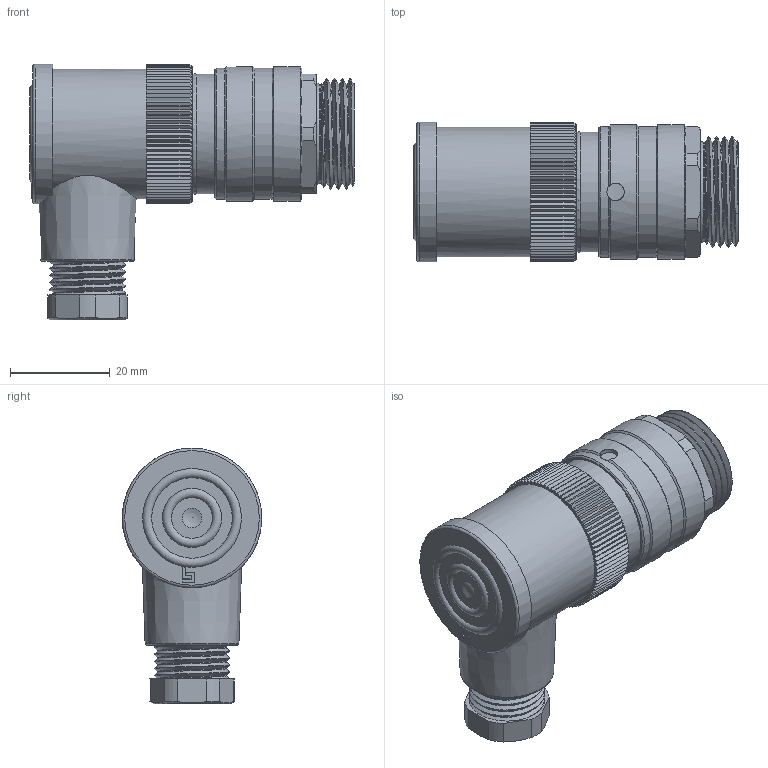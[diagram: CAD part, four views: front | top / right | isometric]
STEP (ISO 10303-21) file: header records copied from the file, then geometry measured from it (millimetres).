
FILE_DESCRIPTION(/* description */ (''),/* implementation_level */ '2;1');
FILE_NAME(/* name */ '99 2443 52 04 001_00.stp',/* time_stamp */ '2017-07-31T06:44:27+02:00',/* author */ (''),/* organization */ (''),/* preprocessor_version */ 'ST-DEVELOPER v16',/* originating_system */ 'SIEMENS PLM Software NX 11.0',/* authorisation */ '');
FILE_SCHEMA (('AUTOMOTIVE_DESIGN { 1 0 10303 214 3 1 1 1 }'));
Length unit declared in the file: millimetre
Products named in the file (1): smag1CC4F0DAxssc
Bounding box: 65.1 x 28 x 51.3 mm (x, y, z)
Volume: 37665.3 mm3; surface area: 11367.3 mm2
Topology: 1 solids, 2 shells, 441 faces, 1016 edges, 605 vertices
Faces by surface type: plane 249, cone 114, cylinder 48, bspline 16, torus 13, sphere 1
Full cylindrical faces by diameter (mm): 2 x4, 3.3 x4, 3.5 x1, 9.5 x1, 15.6 x1, 17.8 x1, 18.1 x1, 18.5 x1, 20 x1, 24 x2, 24.1 x1, 24.8 x1, 26 x1, 26.2 x1, 26.3 x2, 27 x2, 28 x1
Entity records: 16598 total; most frequent: CARTESIAN_POINT 7446, ORIENTED_EDGE 1864, DIRECTION 1763, EDGE_CURVE 932, AXIS2_PLACEMENT_3D 652, VERTEX_POINT 582, EDGE_LOOP 528, LINE 459
